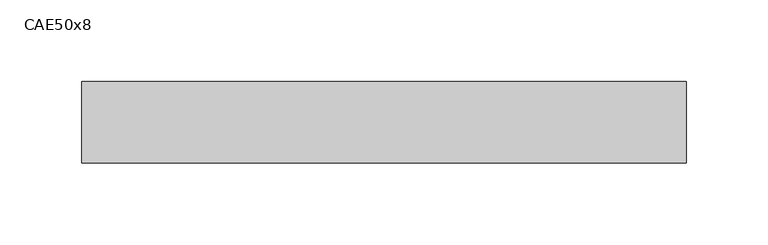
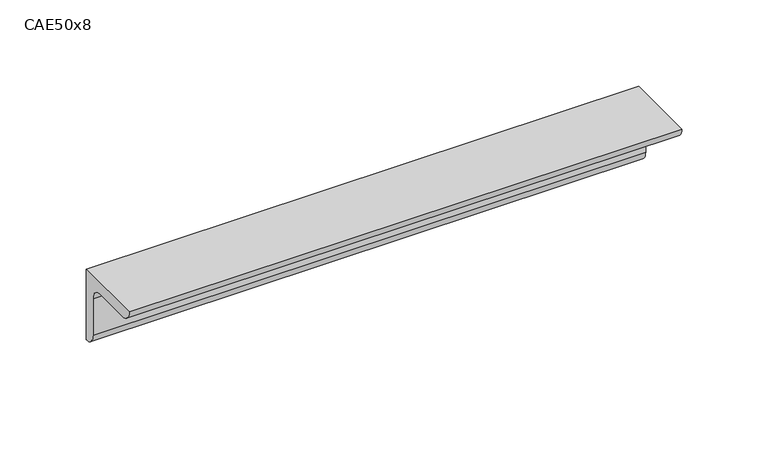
"""IFC4 building model written with IfcOpenShell, lengths in millimetres: beam geometry, L-Cornières : CAE50x8."""

from ifc_helpers import new_model, si_unit, point, frame, frame_2d, origin, place, context, project, spatial, polyline, circle_curve, trimmed, segment, composite_curve, outline, extrude, source, transform, mapped, element, save


def cae50x8_e65a1141(model_context):
    return source(origin(), model_context, "Body", "SweptSolid", [
        extrude(outline(composite_curve([segment(polyline([(15.2, 15.2), (15.2, -34.8)]), True, "CONTINUOUS"), segment(trimmed(circle_curve(frame_2d((15.2, -26.8)), 8.0), [point((15.2, -34.8))], [point((7.2, -26.8))], False, "CARTESIAN"), True, "CONTINUOUS"), segment(polyline([(7.2, -26.8), (7.2, -0.8)]), True, "CONTINUOUS"), segment(trimmed(circle_curve(frame_2d((-0.8, -0.8)), 8.0), [point((7.2, -0.8))], [point((-0.8, 7.2))], True, "CARTESIAN"), True, "CONTINUOUS"), segment(polyline([(-0.8, 7.2), (-26.8, 7.2)]), True, "CONTINUOUS"), segment(trimmed(circle_curve(frame_2d((-26.8, 15.2)), 8.0), [point((-26.8, 7.2))], [point((-34.8, 15.2))], False, "CARTESIAN"), True, "CONTINUOUS"), segment(polyline([(-34.8, 15.2), (15.2, 15.2)]), True, "CONTINUOUS")], self_intersect=False)), frame((-187.0, 0.0, 0.0), z_axis=(1.0, 0.0, 0.0), x_axis=(0.0, 1.0, 0.0)), (0.0, 0.0, 1.0), 370.0),
    ])


if __name__ == "__main__":
    model = new_model("IFC4")
    model_context = context("Model", 3, world=origin())
    ifc_project = project(units=[si_unit("LENGTHUNIT", "METRE", prefix="MILLI")], contexts=[model_context])
    site = spatial("IfcSite", under=ifc_project)
    building = spatial("IfcBuilding", under=site)
    placement = place(None, origin())
    cae50x8_shape = cae50x8_e65a1141(model_context)
    element("IfcBeam", 1, ObjectType="L-Cornières : CAE50x8", at=placement, inside=building, context=model_context, shape_type="MappedRepresentation", body=[
        mapped(cae50x8_shape, transform((0.0, 0.0, 0.0), x_axis=(1.0, 0.0, 0.0), y_axis=(0.0, 1.0, 0.0), z_axis=(0.0, 0.0, 1.0))),
    ])
    save(model, "model.ifc")
